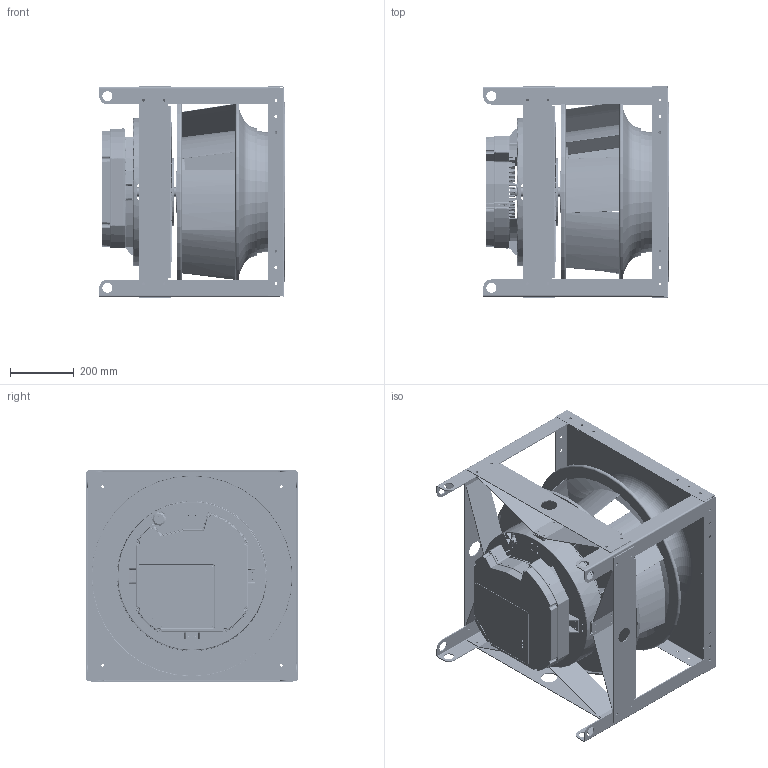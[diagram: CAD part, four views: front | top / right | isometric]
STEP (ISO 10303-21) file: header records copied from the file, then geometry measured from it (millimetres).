
FILE_DESCRIPTION (( 'STEP AP214' ), '1' );
FILE_NAME ('655785.STEP', '2026-06-10T20:35:34', ( '' ), ( '' ), 'SwSTEP 2.0', 'SolidWorks 2023', '' );
FILE_SCHEMA (( 'AUTOMOTIVE_DESIGN' ));
Length unit declared in the file: inch
Products named in the file (8): SXPI STRAP_651579; 925770CS_925770CS; 768050CS_768050CS; 768038CS_768038CS; 651586_651586; 651609_651609; 651559_651559; 655785
Assembly tree (16 placements, depth 2):
  655785
    651559_651559
    768050CS_768050CS
    768038CS_768038CS
    925770CS_925770CS
    651609_651609  x4
    651586_651586  x4
    SXPI STRAP_651579  x4
Bounding box: 579.99 x 663.7 x 663.7 mm (x, y, z)
Volume: 13617054.2 mm3; surface area: 7186296 mm2
Topology: 45 solids, 45 shells, 11271 faces, 27189 edges, 15689 vertices
Faces by surface type: bspline 3374, cylinder 2931, plane 2005, torus 1445, cone 1132, sphere 384
Full cylindrical faces by diameter (mm): 3.962 x4, 7.137 x16, 7.544 x1, 8.738 x84, 31.75 x8, 50.8 x4, 477.774 x1
Entity records: 438862 total; most frequent: CARTESIAN_POINT 208861, ORIENTED_EDGE 51720, DIRECTION 43572, EDGE_CURVE 25860, AXIS2_PLACEMENT_3D 18112, VERTEX_POINT 15256, EDGE_LOOP 11756, FACE_OUTER_BOUND 11041
